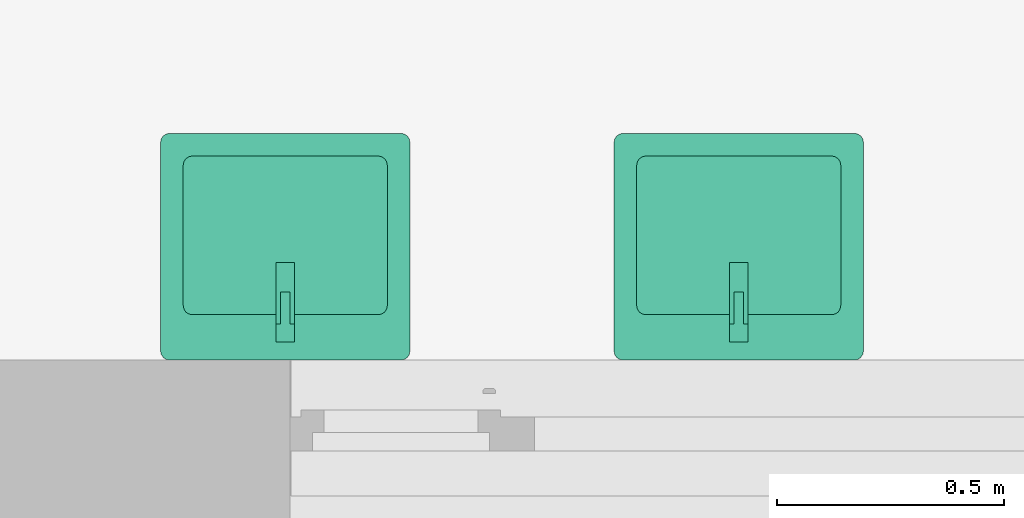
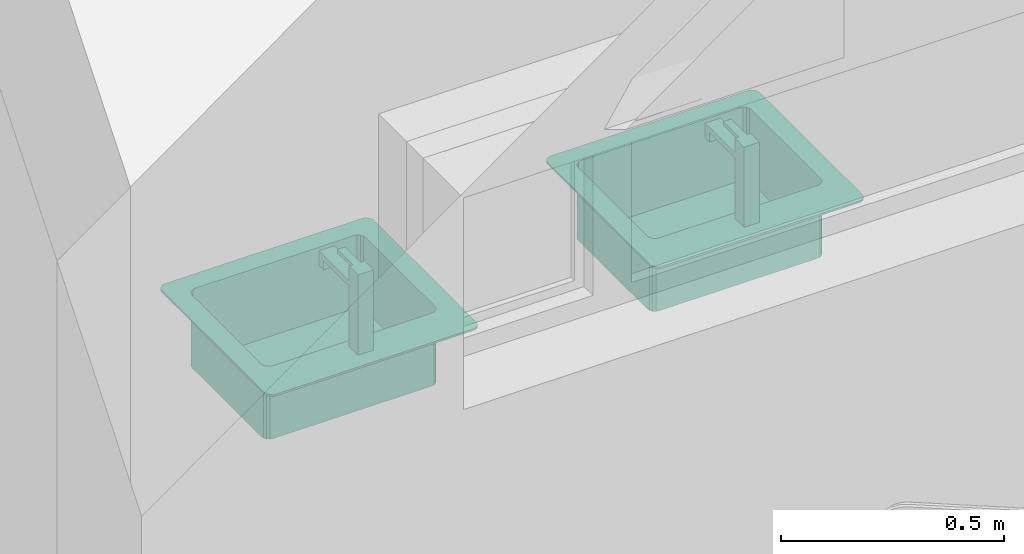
# One storey, part 266 of 301: 2 flow terminals.
"""IFC2X3 building model written with IfcOpenShell, lengths in millimetres."""

from ifc_helpers import new_model, entity, si_unit, converted_unit, derived_unit, money_unit, direction, frame, origin_with_axes, place, context, subcontext, project, spatial, open_shell, faceted_brep, surface_model, source, transform, mapped, type_object, element, save


model = new_model("IFC2X3")

# Units and contexts
model_context = context("Model", 3, precision=0.01, world=origin_with_axes(), true_north=direction((0.0, 1.0)))
body_context = subcontext(model_context, "Body", "Model", "MODEL_VIEW")
ifc_project = project(units=[si_unit("LENGTHUNIT", "METRE", prefix="MILLI"), si_unit("AREAUNIT", "SQUARE_METRE"), si_unit("VOLUMEUNIT", "CUBIC_METRE"), converted_unit("PLANEANGLEUNIT", "DEGREE", entity("IfcPlaneAngleMeasure", 0.0174532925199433), si_unit("PLANEANGLEUNIT", "RADIAN"), dimensions=[0, 0, 0, 0, 0, 0, 0]), money_unit("EUR"), converted_unit("TIMEUNIT", "Year", entity("IfcTimeMeasure", 31557600.0), si_unit("TIMEUNIT", "SECOND"), dimensions=[0, 0, 1, 0, 0, 0, 0]), si_unit("MASSUNIT", "GRAM", prefix="KILO"), si_unit("THERMODYNAMICTEMPERATUREUNIT", "DEGREE_CELSIUS"), si_unit("LUMINOUSINTENSITYUNIT", "LUMEN"), si_unit("ENERGYUNIT", "JOULE", prefix="MEGA"), derived_unit("THERMALCONDUCTANCEUNIT", [(si_unit("POWERUNIT", "WATT"), 1), (si_unit("LENGTHUNIT", "METRE"), -1), (si_unit("THERMODYNAMICTEMPERATUREUNIT", "KELVIN"), -1)]), derived_unit("SPECIFICHEATCAPACITYUNIT", [(si_unit("ENERGYUNIT", "JOULE"), 1), (si_unit("MASSUNIT", "GRAM", prefix="KILO"), -1), (si_unit("THERMODYNAMICTEMPERATUREUNIT", "KELVIN"), -1)]), derived_unit("MASSDENSITYUNIT", [(si_unit("MASSUNIT", "GRAM", prefix="KILO"), 1), (si_unit("VOLUMEUNIT", "CUBIC_METRE"), -1)])], contexts=[model_context])

# Site, building, storey
site_placement = place(None, frame((0.0, 0.0, 8650.0), z_axis=(0.0, 0.0, 1.0), x_axis=(1.0, 0.0, 0.0)))
site = spatial("IfcSite", under=ifc_project, at=site_placement, Name="43301:001:0844", CompositionType="ELEMENT")
building_placement = place(site_placement, origin_with_axes())
building = spatial("IfcBuilding", under=site, at=building_placement, Name="Kuressaare Ametikooli tuulikute mehaanikute õppekorpus", CompositionType="ELEMENT")
storey_placement = place(building_placement, origin_with_axes())
storey = spatial("IfcBuildingStorey", under=building, at=storey_placement, Name="1.korrus", CompositionType="ELEMENT", Elevation=0.0)

# Flow terminals
sanitary_terminal_type = type_object("IfcSanitaryTerminalType", Name="Sink General 27", PredefinedType="NOTDEFINED")
shared_shape = source(origin_with_axes(), body_context, "Body", "SurfaceModel", [
    surface_model("IfcShellBasedSurfaceModel", [(-70.0, 50.0, 705.0), (-70.0, 50.0, 899.9999999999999), (-480.0, 50.0, 899.9999999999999), (-480.0, 50.0, 705.0), (-62.34633135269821, 51.52240934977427, 705.0), (-62.34633135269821, 51.52240934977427, 899.9999999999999), (-487.6536686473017, 51.52240934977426, 899.9999999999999), (-487.6536686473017, 51.52240934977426, 705.0), (-494.142135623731, 55.85786437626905, 705.0), (-498.4775906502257, 62.3463313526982, 705.0), (-500.0, 70.0, 705.0), (-500.0, 380.0, 705.0), (-498.4775906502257, 387.6536686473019, 705.0), (-494.142135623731, 394.142135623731, 705.0), (-487.6536686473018, 398.4775906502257, 705.0), (-480.0, 400.0, 705.0), (-70.0, 400.0, 705.0), (-62.34633135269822, 398.4775906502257, 705.0), (-55.85786437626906, 394.142135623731, 705.0), (-51.52240934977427, 387.6536686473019, 705.0), (-50.0, 380.0, 705.0), (-50.0, 70.0, 705.0), (-51.52240934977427, 62.34633135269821, 705.0), (-55.85786437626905, 55.85786437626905, 705.0), (-55.85786437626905, 55.85786437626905, 899.9999999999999), (-494.142135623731, 55.85786437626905, 899.9999999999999), (-498.4775906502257, 62.3463313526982, 899.9999999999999), (-500.0, 70.0, 899.9999999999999), (-500.0, 380.0, 899.9999999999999), (-498.4775906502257, 387.6536686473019, 899.9999999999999), (-494.142135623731, 394.142135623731, 899.9999999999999), (-487.6536686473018, 398.4775906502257, 899.9999999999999), (-480.0, 400.0, 899.9999999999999), (-70.0, 400.0, 899.9999999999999), (-62.34633135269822, 398.4775906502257, 899.9999999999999), (-55.85786437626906, 394.142135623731, 899.9999999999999), (-51.52240934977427, 387.6536686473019, 899.9999999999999), (-50.0, 380.0, 899.9999999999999), (-50.0, 70.0, 899.9999999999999), (-51.52240934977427, 62.34633135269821, 899.9999999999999)], [open_shell([[[0, 1, 2, 3]], [[4, 5, 1, 0]], [[3, 2, 6, 7]], [[0, 3, 7, 8, 9, 10, 11, 12, 13, 14, 15, 16, 17, 18, 19, 20, 21, 22, 23, 4]], [[23, 24, 5, 4]], [[7, 6, 25, 8]], [[8, 25, 26, 9]], [[9, 26, 27, 10]], [[10, 27, 28, 11]], [[11, 28, 29, 12]], [[12, 29, 30, 13]], [[13, 30, 31, 14]], [[14, 31, 32, 15]], [[15, 32, 33, 16]], [[16, 33, 34, 17]], [[17, 34, 35, 18]], [[18, 35, 36, 19]], [[19, 36, 37, 20]], [[20, 37, 38, 21]], [[21, 38, 39, 22]], [[22, 39, 24, 23]]])]),
    faceted_brep([(-20.0, 0.0, 899.9999999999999), (-20.0, 0.0, 904.9999999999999), (-530.0, 0.0, 904.9999999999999), (-530.0, 0.0, 899.9999999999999), (-12.34633135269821, 1.522409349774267, 899.9999999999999), (-12.34633135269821, 1.522409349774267, 904.9999999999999), (-5.857864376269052, 5.857864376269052, 904.9999999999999), (-1.522409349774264, 12.34633135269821, 904.9999999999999), (0.0, 20.0, 904.9999999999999), (0.0, 480.0, 904.9999999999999), (-1.522409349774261, 487.6536686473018, 904.9999999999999), (-5.85786437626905, 494.142135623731, 904.9999999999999), (-12.34633135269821, 498.4775906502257, 904.9999999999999), (-20.0, 500.0, 904.9999999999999), (-530.0, 500.0, 904.9999999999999), (-537.6536686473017, 498.4775906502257, 904.9999999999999), (-544.1421356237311, 494.142135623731, 904.9999999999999), (-548.4775906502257, 487.6536686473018, 904.9999999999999), (-550.0, 480.0, 904.9999999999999), (-550.0, 20.0, 904.9999999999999), (-548.4775906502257, 12.3463313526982, 904.9999999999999), (-544.142135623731, 5.857864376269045, 904.9999999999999), (-537.6536686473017, 1.522409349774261, 904.9999999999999), (-70.0, 50.0, 904.9999999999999), (-480.0, 50.0, 904.9999999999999), (-487.6536686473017, 51.52240934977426, 904.9999999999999), (-494.142135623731, 55.85786437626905, 904.9999999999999), (-498.4775906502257, 62.3463313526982, 904.9999999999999), (-500.0, 70.0, 904.9999999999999), (-500.0, 380.0, 904.9999999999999), (-498.4775906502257, 387.6536686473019, 904.9999999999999), (-494.142135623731, 394.142135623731, 904.9999999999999), (-487.6536686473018, 398.4775906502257, 904.9999999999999), (-480.0, 400.0, 904.9999999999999), (-70.0, 400.0, 904.9999999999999), (-62.34633135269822, 398.4775906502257, 904.9999999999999), (-55.85786437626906, 394.142135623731, 904.9999999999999), (-51.52240934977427, 387.6536686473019, 904.9999999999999), (-50.0, 380.0, 904.9999999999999), (-50.0, 70.0, 904.9999999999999), (-51.52240934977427, 62.34633135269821, 904.9999999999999), (-55.85786437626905, 55.85786437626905, 904.9999999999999), (-62.34633135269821, 51.52240934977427, 904.9999999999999), (-537.6536686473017, 1.522409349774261, 899.9999999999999), (-544.142135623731, 5.857864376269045, 899.9999999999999), (-548.4775906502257, 12.3463313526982, 899.9999999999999), (-550.0, 20.0, 899.9999999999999), (-550.0, 480.0, 899.9999999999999), (-548.4775906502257, 487.6536686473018, 899.9999999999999), (-544.1421356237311, 494.142135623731, 899.9999999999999), (-537.6536686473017, 498.4775906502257, 899.9999999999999), (-530.0, 500.0, 899.9999999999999), (-20.0, 500.0, 899.9999999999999), (-12.34633135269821, 498.4775906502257, 899.9999999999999), (-5.85786437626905, 494.142135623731, 899.9999999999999), (-1.522409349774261, 487.6536686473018, 899.9999999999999), (0.0, 480.0, 899.9999999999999), (0.0, 20.0, 899.9999999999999), (-1.522409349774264, 12.34633135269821, 899.9999999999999), (-5.857864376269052, 5.857864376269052, 899.9999999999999), (-70.0, 50.0, 899.9999999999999), (-62.34633135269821, 51.52240934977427, 899.9999999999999), (-55.85786437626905, 55.85786437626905, 899.9999999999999), (-51.52240934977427, 62.34633135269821, 899.9999999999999), (-50.0, 70.0, 899.9999999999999), (-50.0, 380.0, 899.9999999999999), (-51.52240934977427, 387.6536686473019, 899.9999999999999), (-55.85786437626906, 394.142135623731, 899.9999999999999), (-62.34633135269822, 398.4775906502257, 899.9999999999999), (-70.0, 400.0, 899.9999999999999), (-480.0, 400.0, 899.9999999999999), (-487.6536686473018, 398.4775906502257, 899.9999999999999), (-494.142135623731, 394.142135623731, 899.9999999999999), (-498.4775906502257, 387.6536686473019, 899.9999999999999), (-500.0, 380.0, 899.9999999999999), (-500.0, 70.0, 899.9999999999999), (-498.4775906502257, 62.3463313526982, 899.9999999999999), (-494.142135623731, 55.85786437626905, 899.9999999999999), (-487.6536686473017, 51.52240934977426, 899.9999999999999), (-480.0, 50.0, 899.9999999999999)], [[[0, 1, 2, 3]], [[4, 5, 1, 0]], [[1, 5, 6, 7, 8, 9, 10, 11, 12, 13, 14, 15, 16, 17, 18, 19, 20, 21, 22, 2], [23, 24, 25, 26, 27, 28, 29, 30, 31, 32, 33, 34, 35, 36, 37, 38, 39, 40, 41, 42]], [[3, 2, 22, 43]], [[0, 3, 43, 44, 45, 46, 47, 48, 49, 50, 51, 52, 53, 54, 55, 56, 57, 58, 59, 4], [60, 61, 62, 63, 64, 65, 66, 67, 68, 69, 70, 71, 72, 73, 74, 75, 76, 77, 78, 79]], [[59, 6, 5, 4]], [[58, 7, 6, 59]], [[57, 8, 7, 58]], [[56, 9, 8, 57]], [[55, 10, 9, 56]], [[54, 11, 10, 55]], [[53, 12, 11, 54]], [[52, 13, 12, 53]], [[51, 14, 13, 52]], [[50, 15, 14, 51]], [[49, 16, 15, 50]], [[48, 17, 16, 49]], [[47, 18, 17, 48]], [[46, 19, 18, 47]], [[45, 20, 19, 46]], [[44, 21, 20, 45]], [[43, 22, 21, 44]], [[79, 24, 23, 60]], [[78, 25, 24, 79]], [[77, 26, 25, 78]], [[76, 27, 26, 77]], [[75, 28, 27, 76]], [[74, 29, 28, 75]], [[73, 30, 29, 74]], [[72, 31, 30, 73]], [[71, 32, 31, 72]], [[70, 33, 32, 71]], [[69, 34, 33, 70]], [[68, 35, 34, 69]], [[67, 36, 35, 68]], [[66, 37, 36, 67]], [[65, 38, 37, 66]], [[64, 39, 38, 65]], [[63, 40, 39, 64]], [[62, 41, 40, 63]], [[61, 42, 41, 62]], [[60, 23, 42, 61]]]),
    faceted_brep([(-295.0000000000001, 460.0, 905.0), (-255.0000000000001, 460.0, 905.0), (-255.0000000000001, 420.0, 905.0), (-295.0000000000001, 420.0, 905.0), (-295.0000000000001, 460.0, 1085.0), (-255.0000000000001, 460.0, 1085.0), (-255.0000000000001, 285.0000000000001, 1085.0), (-255.0000000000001, 285.0000000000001, 1045.0), (-255.0000000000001, 305.0, 1045.0), (-255.0000000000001, 305.0, 1070.0), (-255.0000000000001, 420.0, 1070.0), (-295.0000000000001, 420.0, 1070.0), (-295.0000000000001, 305.0, 1070.0), (-295.0000000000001, 305.0, 1045.0), (-295.0000000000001, 285.0000000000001, 1045.0), (-295.0000000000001, 285.0000000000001, 1085.0)], [[[0, 1, 2, 3]], [[4, 5, 1, 0]], [[1, 5, 6, 7, 8, 9, 10, 2]], [[3, 2, 10, 11]], [[0, 3, 11, 12, 13, 14, 15, 4]], [[15, 6, 5, 4]], [[14, 7, 6, 15]], [[13, 8, 7, 14]], [[12, 9, 8, 13]], [[11, 10, 9, 12]]]),
    faceted_brep([(-295.0000000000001, 460.0, 1085.0), (-255.0000000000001, 460.0, 1085.0), (-255.0000000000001, 420.0, 1085.0), (-295.0000000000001, 420.0, 1085.0), (-295.0000000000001, 460.0, 1125.0), (-255.0000000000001, 460.0, 1125.0), (-255.0000000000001, 420.0, 1125.0), (-295.0000000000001, 420.0, 1125.0)], [[[0, 1, 2, 3]], [[4, 5, 1, 0]], [[1, 5, 6, 2]], [[3, 2, 6, 7]], [[0, 3, 7, 4]], [[7, 6, 5, 4]]]),
    faceted_brep([(-285.0000000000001, 420.0, 1115.0), (-265.0, 420.0, 1115.0), (-265.0, 350.0, 1115.0), (-285.0000000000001, 350.0, 1115.0), (-285.0000000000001, 420.0, 1125.0), (-265.0, 420.0, 1125.0), (-265.0, 350.0, 1125.0), (-285.0000000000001, 350.0, 1125.0)], [[[0, 1, 2, 3]], [[4, 5, 1, 0]], [[1, 5, 6, 2]], [[3, 2, 6, 7]], [[0, 3, 7, 4]], [[7, 6, 5, 4]]]),
])
for number, where, z_axis, x_axis, name in (
    (1, (122525.4713342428, 32808.82728576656, 0.0), (0.0, 0.0, 1.0), (-1.0, 0.0, 0.0), "rv valamu"),
    (2, (121525.4713342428, 32808.82728576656, 0.0), (0.0, 0.0, 1.0), (-1.0, 0.0, 0.0), "rv valamu"),
):
    element("IfcFlowTerminal", number, at=place(storey_placement, frame(where, z_axis=z_axis, x_axis=x_axis)), inside=storey, type_object=sanitary_terminal_type, Name=name, context=body_context, shape_type="MappedRepresentation", body=[
        mapped(shared_shape, transform((0.0, 0.0, 0.0))),
    ])

save(model, "model.ifc")
